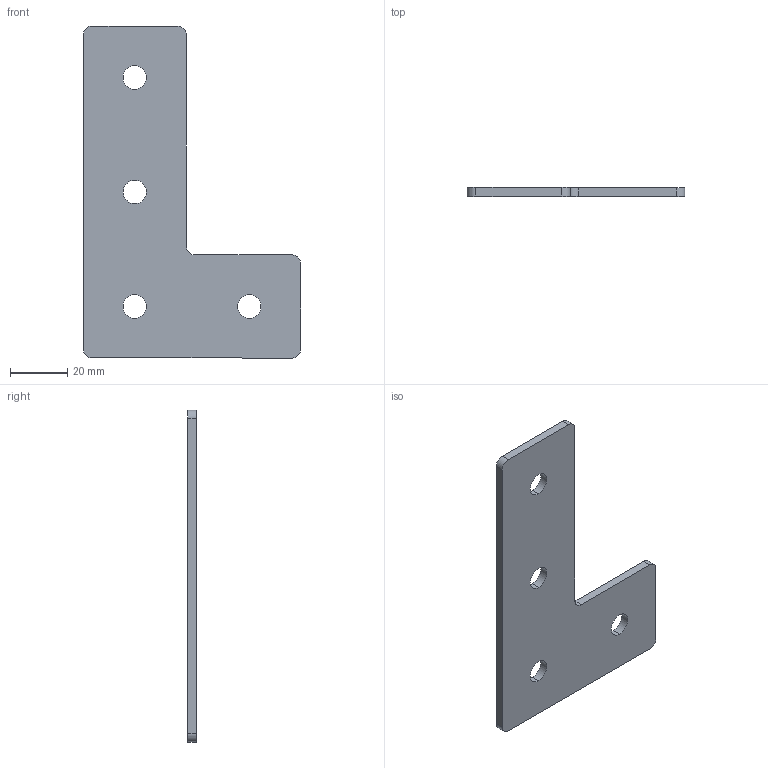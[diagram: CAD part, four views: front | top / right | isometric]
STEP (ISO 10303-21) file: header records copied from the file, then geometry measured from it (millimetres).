
FILE_DESCRIPTION (( 'STEP AP203' ), '1' );
FILE_NAME ('Ã-4-40.STEP', '2016-07-19T11:57:49', ( 'RosInstal-MKM' ), ( '' ), 'SwSTEP 2.0', 'SolidWorks 2014', '' );
FILE_SCHEMA (( 'CONFIG_CONTROL_DESIGN' ));
Length unit declared in the file: millimetre
Products named in the file (1): ﾃ-4-40
Bounding box: 76 x 3 x 116 mm (x, y, z)
Surface area: 12232 mm2 (no closed solid volume)
Topology: 0 solids, 1 shells, 22 faces, 60 edges, 40 vertices
Faces by surface type: cylinder 14, plane 8
Entity records: 805 total; most frequent: DIRECTION 134, CARTESIAN_POINT 123, ORIENTED_EDGE 120, EDGE_CURVE 60, AXIS2_PLACEMENT_3D 51, VERTEX_POINT 40, LINE 32, VECTOR 32
